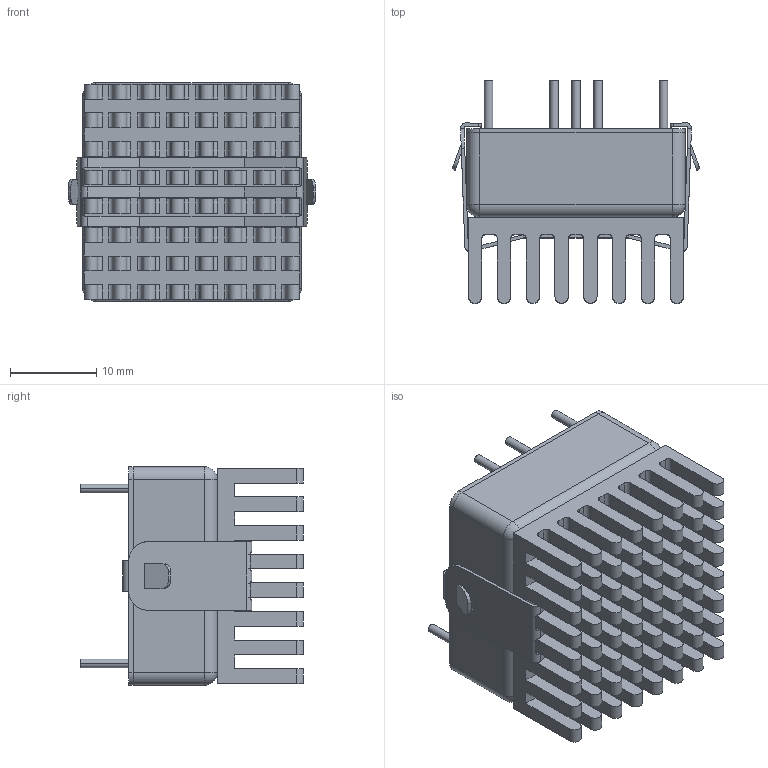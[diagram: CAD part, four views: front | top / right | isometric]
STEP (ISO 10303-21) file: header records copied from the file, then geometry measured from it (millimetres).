
FILE_DESCRIPTION (( 'STEP AP203' ), '1' );
FILE_NAME ('EC3SB Suffix+K-C087 Type-1130111.STEP', '2024-01-11T06:18:44', ( 'cincon' ), ( '' ), 'SwSTEP 2.0', 'SolidWorks 2020', '' );
FILE_SCHEMA (( 'CONFIG_CONTROL_DESIGN' ));
Length unit declared in the file: millimetre
Products named in the file (1): EC3SB Suffix+K-C087 Type-1130111
Bounding box: 28.76 x 25.9 x 25.4 mm (x, y, z)
Volume: 9294.3 mm3; surface area: 7166 mm2
Topology: 1 solids, 1 shells, 633 faces, 1758 edges, 1162 vertices
Faces by surface type: plane 351, cylinder 259, cone 18, sphere 4, bspline 1
Entity records: 20932 total; most frequent: CARTESIAN_POINT 4178, DIRECTION 3534, ORIENTED_EDGE 3508, EDGE_CURVE 1754, AXIS2_PLACEMENT_3D 1219, VERTEX_POINT 1162, VECTOR 1096, LINE 1096
